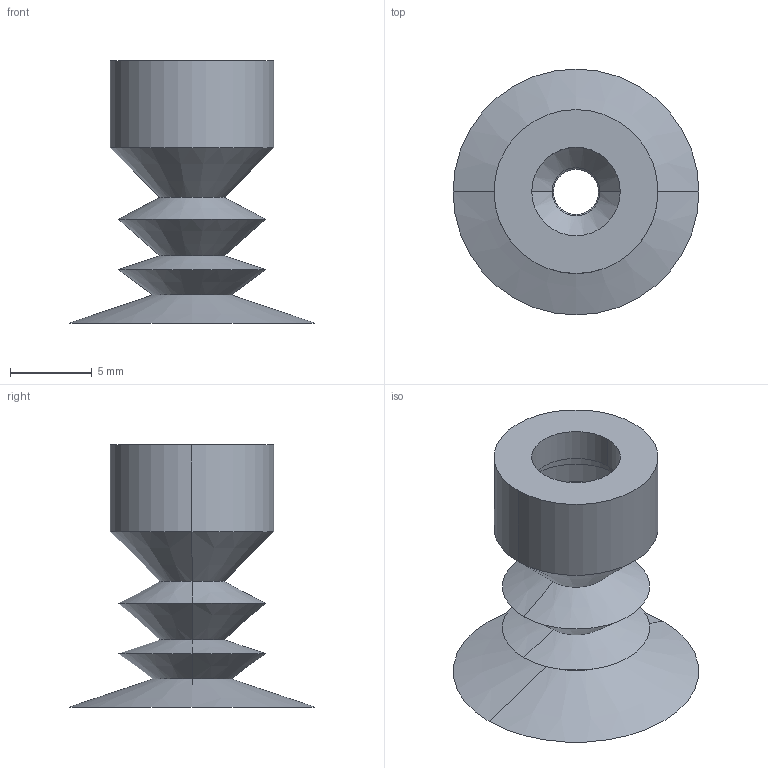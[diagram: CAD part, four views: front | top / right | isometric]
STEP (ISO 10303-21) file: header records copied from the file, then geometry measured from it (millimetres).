
FILE_DESCRIPTION (( 'STEP AP214' ), '1' );
FILE_NAME ('VSH3-S15.STEP', '2019-12-02T08:16:21', ( '微软用户' ), ( '微软中国' ), 'SwSTEP 2.0', 'SolidWorks 2016', '' );
FILE_SCHEMA (( 'AUTOMOTIVE_DESIGN' ));
Length unit declared in the file: millimetre
Products named in the file (1): VSH3-S15
Bounding box: 15 x 15 x 16 mm (x, y, z)
Volume: 308.9 mm3; surface area: 1345 mm2
Topology: 1 solids, 1 shells, 36 faces, 72 edges, 40 vertices
Faces by surface type: cone 24, cylinder 8, plane 4
Entity records: 962 total; most frequent: DIRECTION 186, CARTESIAN_POINT 149, ORIENTED_EDGE 144, AXIS2_PLACEMENT_3D 77, EDGE_CURVE 72, EDGE_LOOP 40, CIRCLE 40, VERTEX_POINT 40
